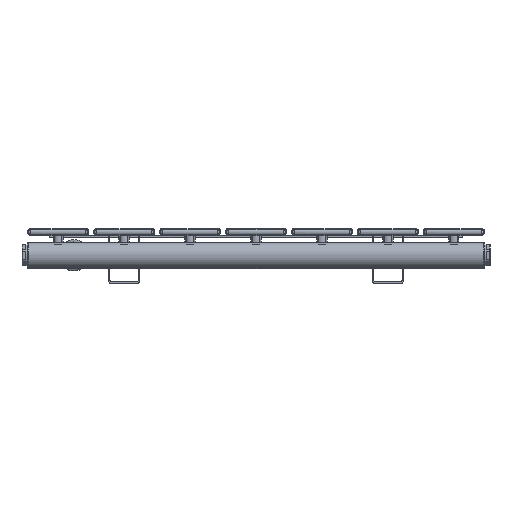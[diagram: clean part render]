
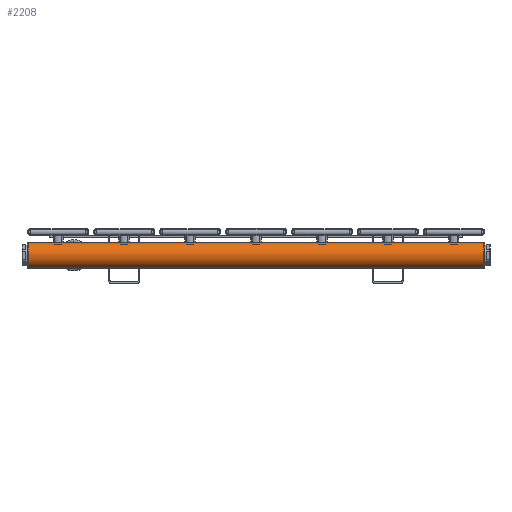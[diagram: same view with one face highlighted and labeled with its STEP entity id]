
A CAD part, left-side view. The second image highlights one B-rep face of the part: STEP entity #2208.
In plain terms, the highlighted cylindrical face has radius 15 mm (diameter 30 mm), a full revolution.
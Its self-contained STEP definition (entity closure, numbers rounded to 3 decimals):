
#660=FACE_BOUND('',#927,.T.);
#777=FACE_OUTER_BOUND('',#926,.T.);
#926=EDGE_LOOP('',(#1962));
#927=EDGE_LOOP('',(#1963));
#1038=CIRCLE('',#2489,15.);
#1039=CIRCLE('',#2491,15.);
#1204=VERTEX_POINT('',#3847);
#1205=VERTEX_POINT('',#3850);
#1466=EDGE_CURVE('',#1204,#1204,#1038,.T.);
#1467=EDGE_CURVE('',#1205,#1205,#1039,.T.);
#1962=ORIENTED_EDGE('',*,*,#1466,.F.);
#1963=ORIENTED_EDGE('',*,*,#1467,.F.);
#2101=CYLINDRICAL_SURFACE('',#2492,15.);
#2208=ADVANCED_FACE('',(#777,#660),#2101,.T.);
#2489=AXIS2_PLACEMENT_3D('',#3848,#3088,#3089);
#2491=AXIS2_PLACEMENT_3D('',#3851,#3092,#3093);
#2492=AXIS2_PLACEMENT_3D('',#3852,#3094,#3095);
#3088=DIRECTION('center_axis',(0.,0.,1.));
#3089=DIRECTION('ref_axis',(-1.,0.,0.));
#3092=DIRECTION('center_axis',(0.,0.,-1.));
#3093=DIRECTION('ref_axis',(-1.,0.,0.));
#3094=DIRECTION('center_axis',(0.,0.,1.));
#3095=DIRECTION('ref_axis',(-1.,0.,0.));
#3847=CARTESIAN_POINT('',(15.,-15.,520.));
#3848=CARTESIAN_POINT('Origin',(0.,-15.,520.));
#3850=CARTESIAN_POINT('',(15.,-15.,0.));
#3851=CARTESIAN_POINT('Origin',(0.,-15.,0.));
#3852=CARTESIAN_POINT('Origin',(0.,-15.,0.));
